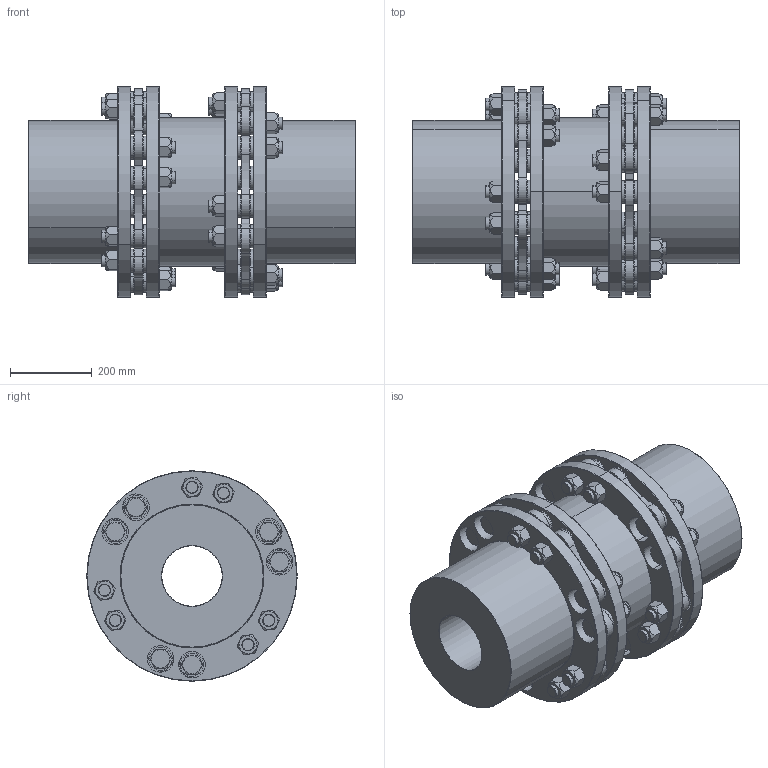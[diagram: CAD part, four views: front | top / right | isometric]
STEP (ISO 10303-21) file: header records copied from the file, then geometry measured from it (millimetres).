
FILE_DESCRIPTION (( 'STEP AP203' ), '1' );
FILE_NAME ('STEP_DMU_250.STEP', '2018-07-26T12:07:46', ( '' ), ( '' ), 'SwSTEP 2.0', 'SolidWorks 2017', '' );
FILE_SCHEMA (( 'CONFIG_CONTROL_DESIGN' ));
Products named in the file (1): STEP_DMU_250
Bounding box: 800 x 515 x 515 mm (x, y, z)
Volume: 64730927.4 mm3; surface area: 3257837.9 mm2
Topology: 1 solids, 1 shells, 2048 faces, 4872 edges, 2912 vertices
Faces by surface type: plane 1048, cone 492, cylinder 380, torus 128
Entity records: 65133 total; most frequent: CARTESIAN_POINT 18185, DIRECTION 9994, ORIENTED_EDGE 9552, EDGE_CURVE 4776, AXIS2_PLACEMENT_3D 3841, VERTEX_POINT 2912, LINE 2312, VECTOR 2312
